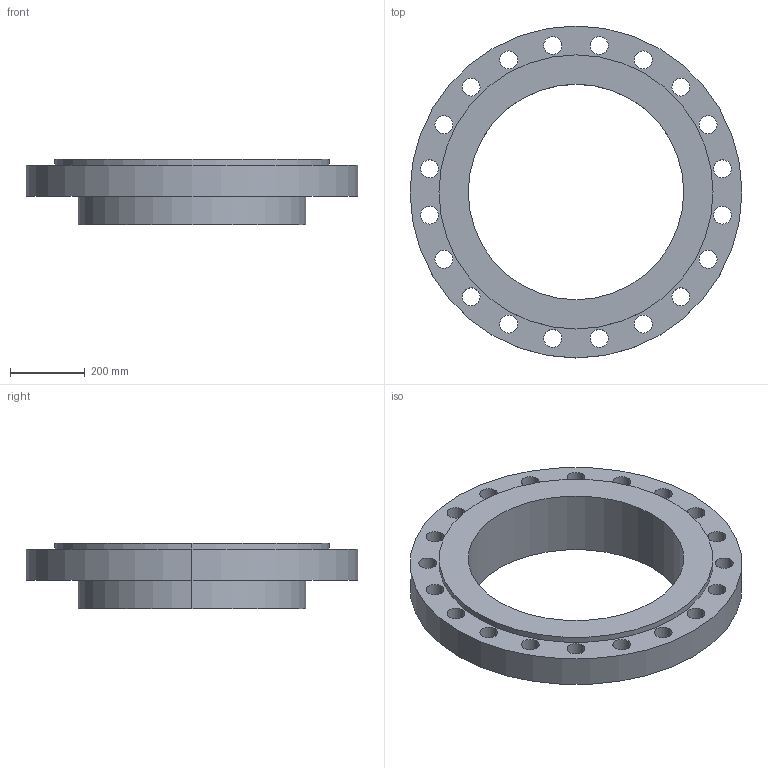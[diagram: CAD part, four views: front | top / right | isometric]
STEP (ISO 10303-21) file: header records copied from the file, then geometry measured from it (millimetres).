
FILE_DESCRIPTION (( 'STEP AP214' ), '1' );
FILE_NAME ('PN40 DN600 Type 02 in 33 - (Type A Face).STEP', '2018-12-29T05:38:21', ( '' ), ( '' ), 'SwSTEP 2.0', 'SolidWorks 2019', '' );
FILE_SCHEMA (( 'AUTOMOTIVE_DESIGN' ));
Length unit declared in the file: millimetre
Products named in the file (1): PN40 DN600 Type 02 in 33 - (Type A Face)
Bounding box: 890 x 890 x 176 mm (x, y, z)
Volume: 31059908.7 mm3; surface area: 2185461.5 mm2
Topology: 2 solids, 2 shells, 59 faces, 158 edges, 104 vertices
Faces by surface type: cylinder 50, plane 5, cone 4
Entity records: 2035 total; most frequent: DIRECTION 382, CARTESIAN_POINT 322, ORIENTED_EDGE 316, AXIS2_PLACEMENT_3D 164, EDGE_CURVE 158, EDGE_LOOP 104, CIRCLE 104, VERTEX_POINT 104
